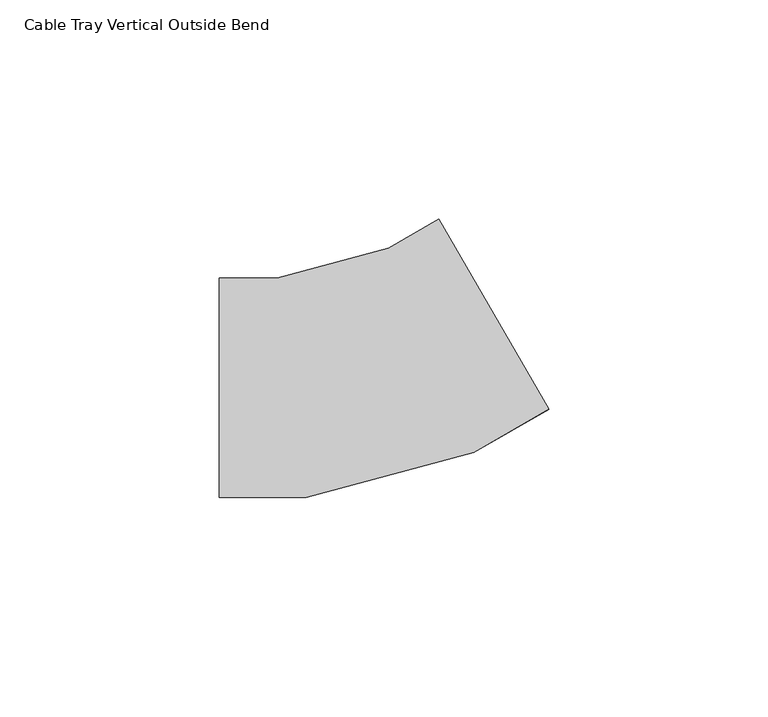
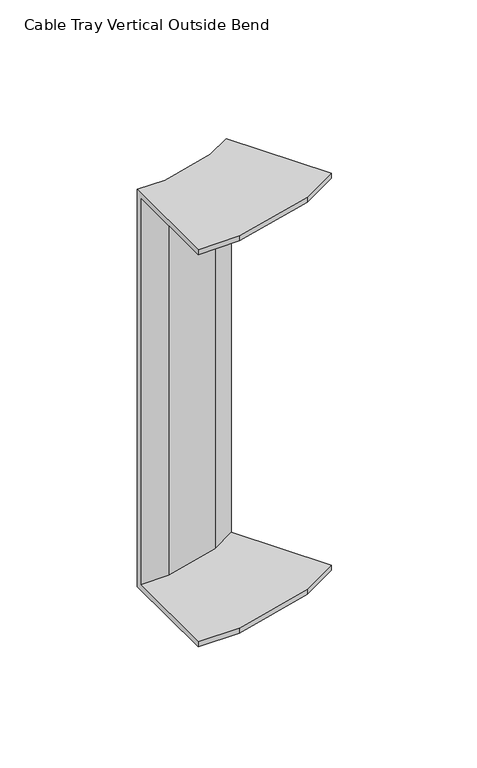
"""IFC4 building model written with IfcOpenShell, lengths in millimetres: cable carrier fitting geometry, Cable Tray Vertical Outside Bend : ELEC_SUB_CT_N2402."""

from ifc_helpers import new_model, si_unit, origin, place, context, project, spatial, faceted_brep, source, transform, mapped, element, save


def cable_tray_vertical_outside_bend_665fa45d(model_context):
    return source(origin(), model_context, "Body", "Brep", [
        faceted_brep([(-33.4936491, -25.0, 100.0), (-33.4936491, 25.0, 100.0), (-33.4936491, 25.0, -100.0), (-33.4936491, -25.0, -100.0), (-33.4936491, -25.0, -97.46), (-33.4936491, 22.46, -97.46), (-33.4936491, 22.46, 97.46), (-33.4936491, -25.0, 97.46), (41.5063509, -4.9038106, 100.0), (41.5063509, -4.9038106, 97.46), (17.7763509, 36.1977551, 97.46), (17.7763509, 36.1977551, -97.46), (41.5063509, -4.9038106, -97.46), (41.5063509, -4.9038106, -100.0), (16.5063509, 38.3974596, -100.0), (16.5063509, 38.3974596, 100.0), (-13.7457744, -25.0, 100.0), (24.4041898, -14.7777479, 100.0), (5.1049102, 31.8148347, 100.0), (-20.3283993, 25.0, 100.0), (-20.3283993, 25.0, -100.0), (5.1049102, 31.8148347, -100.0), (24.4041898, -14.7777479, -100.0), (-13.7457744, -25.0, -100.0), (-13.7457744, -25.0, -97.46), (24.4041898, -14.7777479, -97.46), (6.0853136, 29.4479316, -97.46), (-19.994002, 22.46, -97.46), (-19.994002, 22.46, 97.46), (6.0853136, 29.4479316, 97.46), (24.4041898, -14.7777479, 97.46), (-13.7457744, -25.0, 97.46)], [[[0, 1, 2, 3, 4, 5, 6, 7]], [[8, 9, 10, 11, 12, 13, 14, 15]], [[1, 0, 16, 17, 8, 15, 18, 19]], [[2, 1, 19, 20]], [[3, 2, 20, 21, 14, 13, 22, 23]], [[4, 3, 23, 24]], [[5, 4, 24, 25, 12, 11, 26, 27]], [[6, 5, 27, 28]], [[7, 6, 28, 29, 10, 9, 30, 31]], [[0, 7, 31, 16]], [[20, 19, 18, 21]], [[24, 23, 22, 25]], [[28, 27, 26, 29]], [[16, 31, 30, 17]], [[21, 18, 15, 14]], [[25, 22, 13, 12]], [[29, 26, 11, 10]], [[17, 30, 9, 8]]]),
    ])


if __name__ == "__main__":
    model = new_model("IFC4")
    model_context = context("Model", 3, world=origin())
    ifc_project = project(units=[si_unit("LENGTHUNIT", "METRE", prefix="MILLI")], contexts=[model_context])
    site = spatial("IfcSite", under=ifc_project)
    building = spatial("IfcBuilding", under=site)
    placement = place(None, origin())
    cable_tray_vertical_outside_bend_shape = cable_tray_vertical_outside_bend_665fa45d(model_context)
    element("IfcCableCarrierFitting", 1, ObjectType="Cable Tray Vertical Outside Bend : ELEC_SUB_CT_N2402", at=placement, inside=building, context=model_context, shape_type="MappedRepresentation", body=[
        mapped(cable_tray_vertical_outside_bend_shape, transform((0.0, 0.0, 0.0), x_axis=(1.0, 0.0, 0.0), y_axis=(0.0, 1.0, 0.0), z_axis=(0.0, 0.0, 1.0))),
    ])
    save(model, "model.ifc")
